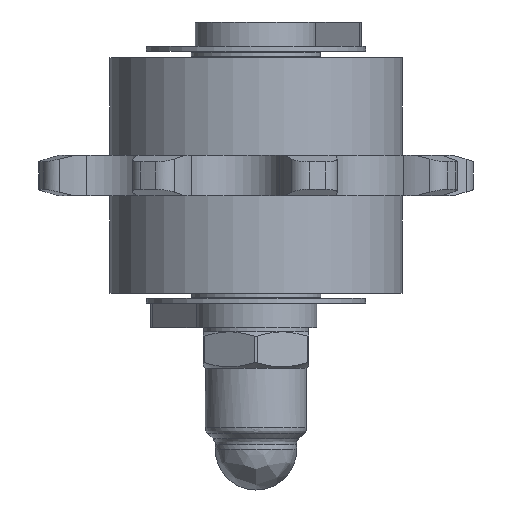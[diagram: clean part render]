
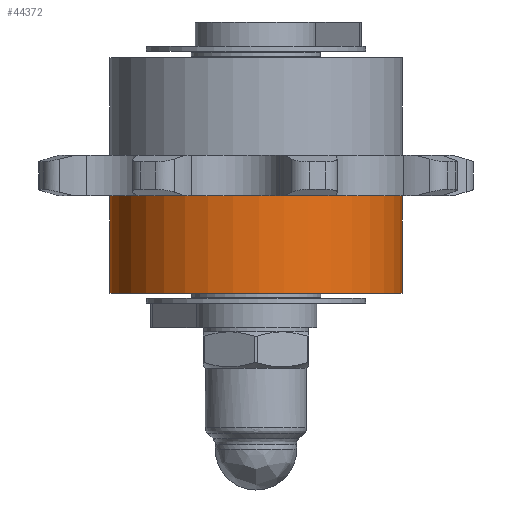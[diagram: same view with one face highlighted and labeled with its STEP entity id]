
A CAD part, left-side view. The second image highlights one B-rep face of the part: STEP entity #44372.
In plain terms, the highlighted cylindrical face has radius 18 mm (diameter 36 mm), a full revolution.
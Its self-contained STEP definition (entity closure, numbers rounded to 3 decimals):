
#3416 = DIRECTION ( 'NONE',  ( -1., 0., 0. ) ) ;
#4390 = DIRECTION ( 'NONE',  ( 0., 0., 1. ) ) ;
#5527 = EDGE_LOOP ( 'NONE', ( #43285 ) ) ;
#8998 = CARTESIAN_POINT ( 'NONE',  ( -17.6, 0., 0. ) ) ;
#19060 = DIRECTION ( 'NONE',  ( 0., 0., 1. ) ) ;
#21602 = CARTESIAN_POINT ( 'NONE',  ( -17.6, 0., 18. ) ) ;
#22410 = FACE_OUTER_BOUND ( 'NONE', #42724, .T. ) ;
#22654 = CYLINDRICAL_SURFACE ( 'NONE', #49205, 18. ) ;
#22790 = DIRECTION ( 'NONE',  ( 0., 0., 1. ) ) ;
#24341 = AXIS2_PLACEMENT_3D ( 'NONE', #26653, #42382, #22790 ) ;
#25820 = EDGE_CURVE ( 'NONE', #32123, #32123, #41664, .T. ) ;
#26653 = CARTESIAN_POINT ( 'NONE',  ( -29.6, 0., 0. ) ) ;
#26776 = CARTESIAN_POINT ( 'NONE',  ( -29.6, 0., 0. ) ) ;
#28763 = DIRECTION ( 'NONE',  ( 1., 0., 0. ) ) ;
#32123 = VERTEX_POINT ( 'NONE', #35987 ) ;
#35987 = CARTESIAN_POINT ( 'NONE',  ( -29.6, 0., 18. ) ) ;
#37524 = ORIENTED_EDGE ( 'NONE', *, *, #25820, .T. ) ;
#38106 = FACE_OUTER_BOUND ( 'NONE', #5527, .T. ) ;
#40936 = AXIS2_PLACEMENT_3D ( 'NONE', #8998, #28763, #4390 ) ;
#41178 = VERTEX_POINT ( 'NONE', #21602 ) ;
#41664 = CIRCLE ( 'NONE', #24341, 18. ) ;
#42382 = DIRECTION ( 'NONE',  ( 1., 0., 0. ) ) ;
#42724 = EDGE_LOOP ( 'NONE', ( #37524 ) ) ;
#43285 = ORIENTED_EDGE ( 'NONE', *, *, #43312, .F. ) ;
#43312 = EDGE_CURVE ( 'NONE', #41178, #41178, #45903, .T. ) ;
#44372 = ADVANCED_FACE ( 'NONE', ( #38106, #22410 ), #22654, .T. ) ;
#45903 = CIRCLE ( 'NONE', #40936, 18. ) ;
#49205 = AXIS2_PLACEMENT_3D ( 'NONE', #26776, #3416, #19060 ) ;
